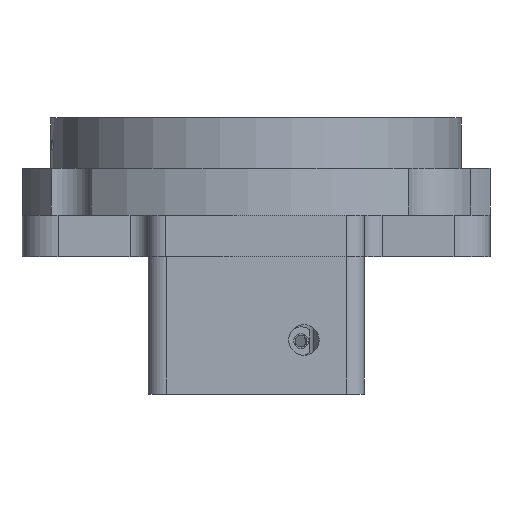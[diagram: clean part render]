
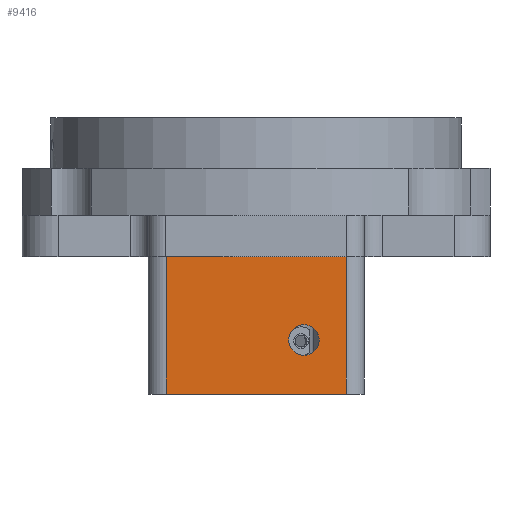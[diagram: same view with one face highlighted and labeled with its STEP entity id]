
A CAD part, front view. The second image highlights one B-rep face of the part: STEP entity #9416.
In plain terms, the highlighted planar face has unit normal (0, -1, 0).
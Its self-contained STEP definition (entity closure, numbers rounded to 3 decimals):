
#415 = CARTESIAN_POINT ( 'NONE',  ( 24.678, -86.99, 109.05 ) ) ;
#541 = DIRECTION ( 'NONE',  ( 0., 0., 1. ) ) ;
#705 = VERTEX_POINT ( 'NONE', #14051 ) ;
#801 = VECTOR ( 'NONE', #6172, 1000. ) ;
#987 = VERTEX_POINT ( 'NONE', #415 ) ;
#1165 = DIRECTION ( 'NONE',  ( 1., 0., 0. ) ) ;
#1353 = DIRECTION ( 'NONE',  ( 0., -1., 0. ) ) ;
#1652 = VERTEX_POINT ( 'NONE', #8557 ) ;
#2128 = EDGE_CURVE ( 'NONE', #987, #705, #5546, .T. ) ;
#2265 = ORIENTED_EDGE ( 'NONE', *, *, #7585, .T. ) ;
#2328 = VECTOR ( 'NONE', #6580, 1000. ) ;
#2713 = CIRCLE ( 'NONE', #7613, 4.25 ) ;
#2753 = AXIS2_PLACEMENT_3D ( 'NONE', #7695, #10891, #1165 ) ;
#2967 = ORIENTED_EDGE ( 'NONE', *, *, #2128, .T. ) ;
#3009 = EDGE_LOOP ( 'NONE', ( #7923, #12895 ) ) ;
#3084 = EDGE_CURVE ( 'NONE', #3494, #4022, #5246, .T. ) ;
#3160 = VERTEX_POINT ( 'NONE', #13205 ) ;
#3494 = VERTEX_POINT ( 'NONE', #4793 ) ;
#4022 = VERTEX_POINT ( 'NONE', #10758 ) ;
#4241 = DIRECTION ( 'NONE',  ( 0., -1., 0. ) ) ;
#4612 = EDGE_LOOP ( 'NONE', ( #2265, #7066, #10524, #2967 ) ) ;
#4793 = CARTESIAN_POINT ( 'NONE',  ( -25.322, -86.99, 147.25 ) ) ;
#5246 = LINE ( 'NONE', #11890, #2328 ) ;
#5339 = AXIS2_PLACEMENT_3D ( 'NONE', #10774, #4241, #11871 ) ;
#5546 = LINE ( 'NONE', #5999, #8411 ) ;
#5999 = CARTESIAN_POINT ( 'NONE',  ( 24.678, -86.99, 109.05 ) ) ;
#6172 = DIRECTION ( 'NONE',  ( 1., 0., 0. ) ) ;
#6334 = LINE ( 'NONE', #6680, #9204 ) ;
#6580 = DIRECTION ( 'NONE',  ( 0., 0., -1. ) ) ;
#6627 = PLANE ( 'NONE',  #2753 ) ;
#6680 = CARTESIAN_POINT ( 'NONE',  ( -30.322, -86.99, 147.25 ) ) ;
#7066 = ORIENTED_EDGE ( 'NONE', *, *, #3084, .T. ) ;
#7585 = EDGE_CURVE ( 'NONE', #705, #3494, #6334, .T. ) ;
#7613 = AXIS2_PLACEMENT_3D ( 'NONE', #7886, #1353, #8976 ) ;
#7695 = CARTESIAN_POINT ( 'NONE',  ( -30.322, -86.99, 109.05 ) ) ;
#7704 = EDGE_CURVE ( 'NONE', #3160, #1652, #2713, .T. ) ;
#7886 = CARTESIAN_POINT ( 'NONE',  ( 12.978, -86.99, 124.05 ) ) ;
#7923 = ORIENTED_EDGE ( 'NONE', *, *, #12777, .F. ) ;
#8411 = VECTOR ( 'NONE', #541, 1000. ) ;
#8557 = CARTESIAN_POINT ( 'NONE',  ( 17.228, -86.99, 124.05 ) ) ;
#8976 = DIRECTION ( 'NONE',  ( 1., 0., 0. ) ) ;
#9152 = LINE ( 'NONE', #12689, #801 ) ;
#9204 = VECTOR ( 'NONE', #13216, 1000. ) ;
#9416 = ADVANCED_FACE ( 'NONE', ( #13130, #12758 ), #6627, .T. ) ;
#9833 = CIRCLE ( 'NONE', #5339, 4.25 ) ;
#10524 = ORIENTED_EDGE ( 'NONE', *, *, #11313, .T. ) ;
#10758 = CARTESIAN_POINT ( 'NONE',  ( -25.322, -86.99, 109.05 ) ) ;
#10774 = CARTESIAN_POINT ( 'NONE',  ( 12.978, -86.99, 124.05 ) ) ;
#10891 = DIRECTION ( 'NONE',  ( 0., -1., 0. ) ) ;
#11313 = EDGE_CURVE ( 'NONE', #4022, #987, #9152, .T. ) ;
#11871 = DIRECTION ( 'NONE',  ( 1., 0., 0. ) ) ;
#11890 = CARTESIAN_POINT ( 'NONE',  ( -25.322, -86.99, 109.05 ) ) ;
#12689 = CARTESIAN_POINT ( 'NONE',  ( -30.322, -86.99, 109.05 ) ) ;
#12758 = FACE_OUTER_BOUND ( 'NONE', #4612, .T. ) ;
#12777 = EDGE_CURVE ( 'NONE', #1652, #3160, #9833, .T. ) ;
#12895 = ORIENTED_EDGE ( 'NONE', *, *, #7704, .F. ) ;
#13130 = FACE_BOUND ( 'NONE', #3009, .T. ) ;
#13205 = CARTESIAN_POINT ( 'NONE',  ( 8.728, -86.99, 124.05 ) ) ;
#13216 = DIRECTION ( 'NONE',  ( -1., 0., 0. ) ) ;
#14051 = CARTESIAN_POINT ( 'NONE',  ( 24.678, -86.99, 147.25 ) ) ;
